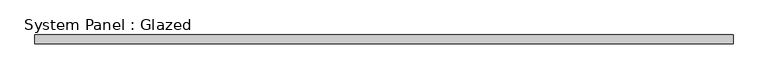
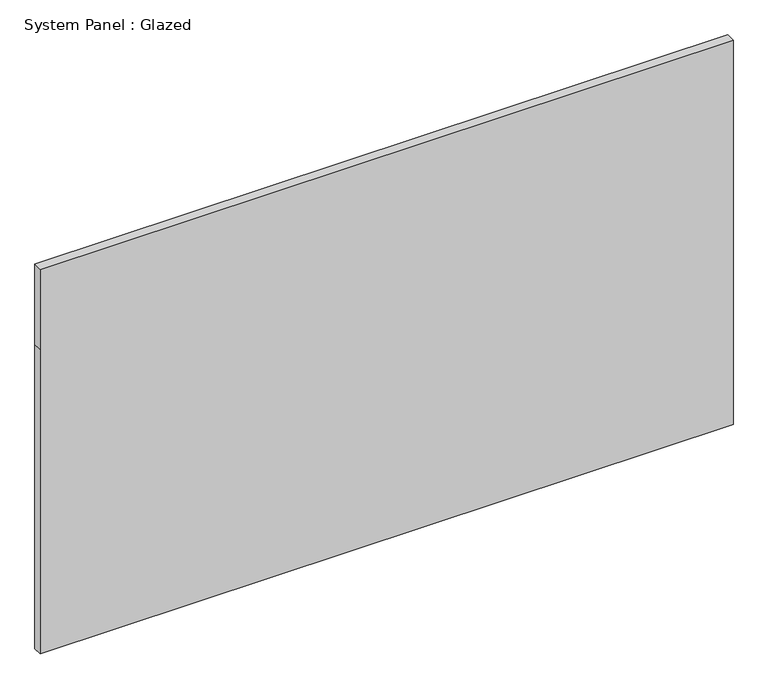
"""IFC4 building model written with IfcOpenShell, lengths in millimetres: plate geometry, System Panel : Glazed."""

from ifc_helpers import new_model, si_unit, frame, origin, place, context, project, spatial, polyline, outline, extrude, source, transform, mapped, element, save


def system_panel_glazed_3ba8046e(model_context):
    return source(origin(), model_context, "Body", "SweptSolid", [
        extrude(outline(polyline([(0.0, -984.25), (0.0, 984.25), (914.4, 984.25), (1155.7, 984.25), (1155.7, -984.25), (914.4, -984.25), (0.0, -984.25)])), frame((0.0, 19.05, 0.0), z_axis=(0.0, 1.0, 0.0), x_axis=(0.0, 0.0, 1.0)), (0.0, 0.0, 1.0), 25.4),
    ])


if __name__ == "__main__":
    model = new_model("IFC4")
    model_context = context("Model", 3, world=origin())
    ifc_project = project(units=[si_unit("LENGTHUNIT", "METRE", prefix="MILLI")], contexts=[model_context])
    site = spatial("IfcSite", under=ifc_project)
    building = spatial("IfcBuilding", under=site)
    placement = place(None, origin())
    system_panel_glazed_shape = system_panel_glazed_3ba8046e(model_context)
    element("IfcPlate", 1, ObjectType="System Panel : Glazed", at=placement, inside=building, context=model_context, shape_type="MappedRepresentation", body=[
        mapped(system_panel_glazed_shape, transform((0.0, 0.0, 0.0), x_axis=(1.0, 0.0, 0.0), y_axis=(0.0, 1.0, 0.0), z_axis=(0.0, 0.0, 1.0))),
    ])
    save(model, "model.ifc")
